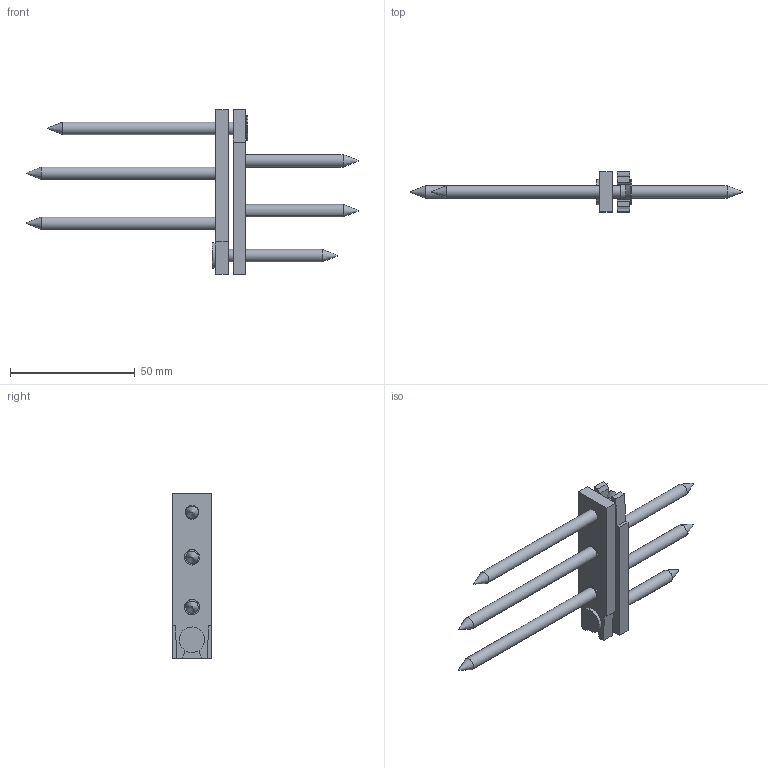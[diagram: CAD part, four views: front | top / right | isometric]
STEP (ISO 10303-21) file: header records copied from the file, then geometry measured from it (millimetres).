
FILE_DESCRIPTION(/* description */ ('Unknown'),/* implementation_level */ '2;1');
FILE_NAME(/* name */ 'RICON Edelstahl_66x16_EA',/* time_stamp */ '2022-02-07T12:20:20+01:00',/* author */ ('Unknown'),/* organization */ ('Unknown'),/* preprocessor_version */ 'ST-DEVELOPER v16.7',/* originating_system */ 'Solid Edge',/* authorisation */ 'Unknown');
FILE_SCHEMA (('AUTOMOTIVE_DESIGN {1 0 10303 214 3 1 1}'));
Length unit declared in the file: millimetre
Products named in the file (4): RICON_16x66_zusammenbau; RICON_16x66; SK_Schraube_5x50; SK_Schraube_5x80
Assembly tree (8 placements, depth 2):
  RICON_16x66_zusammenbau
    RICON_16x66  x2
    SK_Schraube_5x50  x3
    SK_Schraube_5x80  x3
Bounding box: 132.9 x 16 x 66 mm (x, y, z)
Volume: 16110.1 mm3; surface area: 12502.9 mm2
Topology: 8 solids, 8 shells, 90 faces, 184 edges, 116 vertices
Faces by surface type: plane 48, cylinder 26, cone 16
Full cylindrical faces by diameter (mm): 5 x6, 5.5 x2, 6 x6, 6.2 x4, 10 x3, 10.2 x3
Entity records: 1072 total; most frequent: DIRECTION 180, CARTESIAN_POINT 160, ORIENTED_EDGE 128, AXIS2_PLACEMENT_3D 70, EDGE_CURVE 64, EDGE_LOOP 60, FACE_BOUND 60, VERTEX_POINT 50
